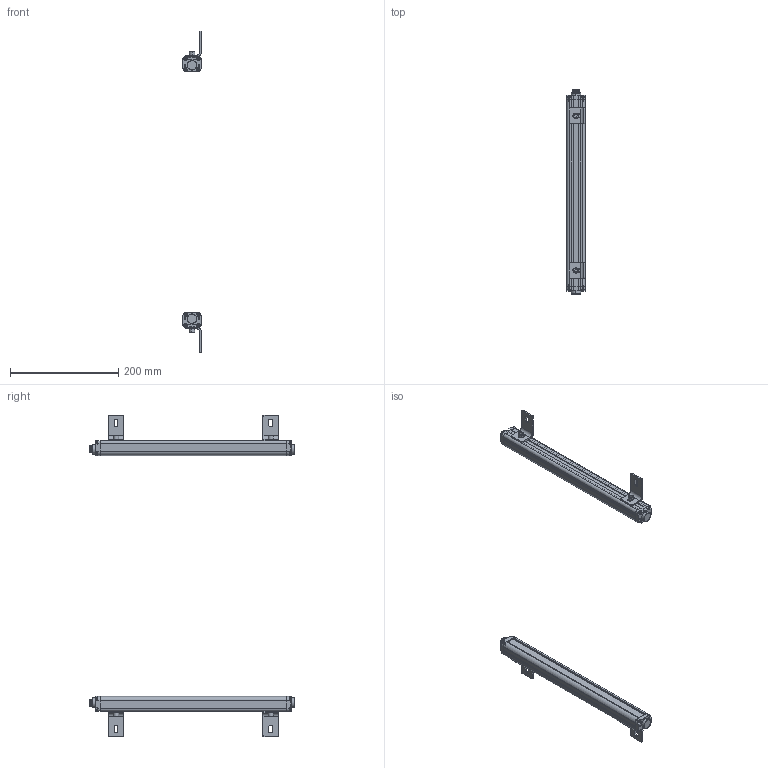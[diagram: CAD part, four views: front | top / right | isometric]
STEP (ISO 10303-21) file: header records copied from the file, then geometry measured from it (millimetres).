
FILE_DESCRIPTION (( 'STEP AP214' ), '1' );
FILE_NAME ('elg3210.STEP', '2018-03-08T10:34:59', ( '' ), ( '' ), 'SwSTEP 2.0', 'SolidWorks 2017', '' );
FILE_SCHEMA (( 'AUTOMOTIVE_DESIGN' ));
Length unit declared in the file: millimetre
Products named in the file (11): dlx-3210; glgdg-3210; hkct1-3210; hk-3210; elgdg03-3210; czzj-3210; lx-3210; elgw-3210; bz1-3210; elg3210; lgp-3210
Assembly tree (40 placements, depth 2):
  elg3210
    elgw-3210  x2
    bz1-3210  x2
    lgp-3210  x2
    glgdg-3210  x2
    elgdg03-3210  x2
    hkct1-3210  x2
    lx-3210  x16
    hk-3210  x4
    czzj-3210  x4
    dlx-3210  x4
Bounding box: 34.7 x 377.6 x 594 mm (x, y, z)
Volume: 292172.7 mm3; surface area: 298398.3 mm2
Topology: 40 solids, 40 shells, 2256 faces, 5896 edges, 3716 vertices
Faces by surface type: cylinder 1080, plane 688, bspline 488
Entity records: 145249 total; most frequent: CARTESIAN_POINT 129340, ORIENTED_EDGE 3348, DIRECTION 3026, EDGE_CURVE 1674, AXIS2_PLACEMENT_3D 1117, VERTEX_POINT 1074, LINE 792, VECTOR 792
